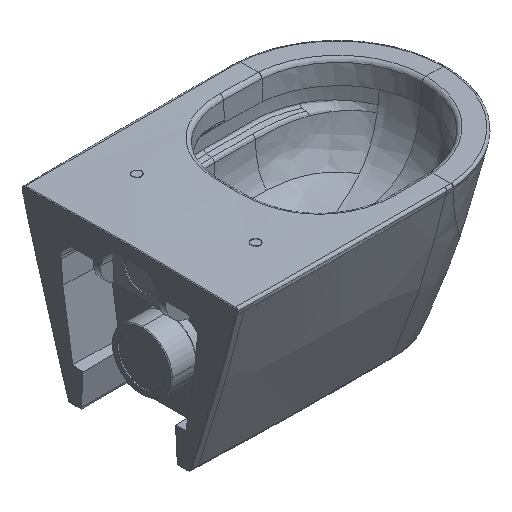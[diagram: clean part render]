
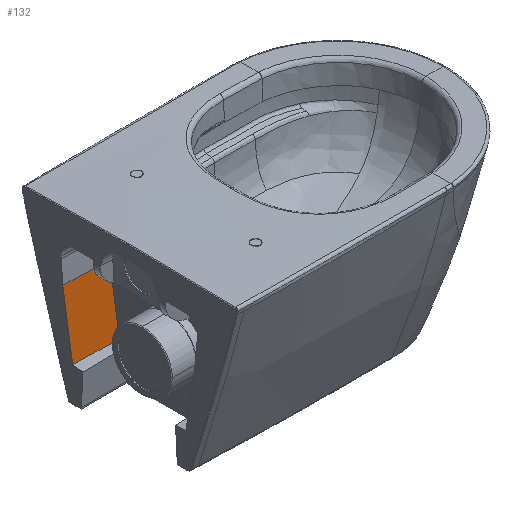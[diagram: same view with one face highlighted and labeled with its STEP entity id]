
A CAD part, isometric view. The second image highlights one B-rep face of the part: STEP entity #132.
In plain terms, the highlighted free-form (B-spline) face has degree [5, 1] with [15, 2] control points.
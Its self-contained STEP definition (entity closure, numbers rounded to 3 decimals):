
#132=ADVANCED_FACE('',(#584),#585,.T.);
#584=FACE_OUTER_BOUND('',#15079,.T.);
#585=B_SPLINE_SURFACE_WITH_KNOTS('',5,1,((#15080,#15081),(#15082,#15083),(#15084,#15085),(#15086,#15087),(#15088,#15089),(#15090,#15091),(#15092,#15093),(#15094,#15095),(#15096,#15097),(#15098,#15099),(#15100,#15101),(#15102,#15103),(#15104,#15105),(#15106,#15107),(#15108,#15109)),.UNSPECIFIED.,.F.,.F.,.F.,(6,3,3,3,6),(2,2),(0.0,15.184,89.95,179.199,179.28),(-2.001,87.641),.UNSPECIFIED.);
#15079=EDGE_LOOP('',(#82486,#82487,#82488,#82489,#82490));
#15080=CARTESIAN_POINT('',(-2.093,114.634,-114.608));
#15081=CARTESIAN_POINT('',(77.398,111.848,-114.207));
#15082=CARTESIAN_POINT('',(-2.047,114.348,-116.486));
#15083=CARTESIAN_POINT('',(77.445,111.563,-116.084));
#15084=CARTESIAN_POINT('',(-2.003,114.063,-118.363));
#15085=CARTESIAN_POINT('',(77.489,111.278,-117.962));
#15086=CARTESIAN_POINT('',(-1.961,113.778,-120.24));
#15087=CARTESIAN_POINT('',(77.53,110.993,-119.839));
#15088=CARTESIAN_POINT('',(-1.73,112.09,-131.362));
#15089=CARTESIAN_POINT('',(77.761,109.304,-130.96));
#15090=CARTESIAN_POINT('',(-1.605,110.401,-142.482));
#15091=CARTESIAN_POINT('',(77.886,107.616,-142.079));
#15092=CARTESIAN_POINT('',(-1.612,109.017,-151.602));
#15093=CARTESIAN_POINT('',(77.879,106.232,-151.198));
#15094=CARTESIAN_POINT('',(-1.864,105.939,-171.874));
#15095=CARTESIAN_POINT('',(77.627,103.154,-171.469));
#15096=CARTESIAN_POINT('',(-2.454,102.862,-192.136));
#15097=CARTESIAN_POINT('',(77.037,100.077,-191.73));
#15098=CARTESIAN_POINT('',(-2.814,101.189,-203.155));
#15099=CARTESIAN_POINT('',(76.677,98.404,-202.749));
#15100=CARTESIAN_POINT('',(-3.104,99.515,-214.184));
#15101=CARTESIAN_POINT('',(76.387,96.73,-213.779));
#15102=CARTESIAN_POINT('',(-3.275,97.841,-225.206));
#15103=CARTESIAN_POINT('',(76.216,95.056,-224.801));
#15104=CARTESIAN_POINT('',(-3.275,97.84,-225.216));
#15105=CARTESIAN_POINT('',(76.216,95.055,-224.811));
#15106=CARTESIAN_POINT('',(-3.275,97.838,-225.226));
#15107=CARTESIAN_POINT('',(76.216,95.053,-224.821));
#15108=CARTESIAN_POINT('',(-3.276,97.837,-225.236));
#15109=CARTESIAN_POINT('',(76.216,95.052,-224.831));
#82486=ORIENTED_EDGE('',*,*,#84848,.T.);
#82487=ORIENTED_EDGE('',*,*,#84849,.F.);
#82488=ORIENTED_EDGE('',*,*,#84850,.T.);
#82489=ORIENTED_EDGE('',*,*,#84851,.F.);
#82490=ORIENTED_EDGE('',*,*,#84572,.T.);
#84572=EDGE_CURVE('',#85982,#85980,#85983,.F.);
#84848=EDGE_CURVE('',#85980,#86462,#86463,.F.);
#84849=EDGE_CURVE('',#86464,#86462,#86465,.T.);
#84850=EDGE_CURVE('',#86464,#86466,#86467,.F.);
#84851=EDGE_CURVE('',#85982,#86466,#86468,.F.);
#85980=VERTEX_POINT('',#89940);
#85982=VERTEX_POINT('',#89957);
#85983=B_SPLINE_CURVE_WITH_KNOTS('',3,(#89958,#89959,#89960,#89961,#89962,#89963,#89964,#89965,#89966,#89967,#89968,#89969),.UNSPECIFIED.,.F.,.F.,(4,1,1,1,1,1,1,1,1,4),(0.0,0.125,0.25,0.375,0.5,0.625,0.687,0.75,0.875,1.0),.UNSPECIFIED.);
#86462=VERTEX_POINT('',#93603);
#86463=B_SPLINE_CURVE_WITH_KNOTS('',1,(#93604,#93605),.UNSPECIFIED.,.F.,.F.,(2,2),(0.0,1.0),.UNSPECIFIED.);
#86464=VERTEX_POINT('',#93606);
#86465=B_SPLINE_CURVE_WITH_KNOTS('',3,(#93607,#93608,#93609,#93610,#93611,#93612,#93613,#93614,#93615),.UNSPECIFIED.,.F.,.F.,(4,1,1,1,1,1,4),(0.0,0.109,0.25,0.5,0.75,0.868,1.0),.UNSPECIFIED.);
#86466=VERTEX_POINT('',#93616);
#86467=B_SPLINE_CURVE_WITH_KNOTS('',3,(#93617,#93618,#93619,#93620),.UNSPECIFIED.,.F.,.F.,(4,4),(0.0,1.0),.UNSPECIFIED.);
#86468=B_SPLINE_CURVE_WITH_KNOTS('',3,(#93621,#93622,#93623,#93624),.UNSPECIFIED.,.F.,.F.,(4,4),(0.0,1.0),.UNSPECIFIED.);
#89940=CARTESIAN_POINT('',(76.228,111.889,-114.213));
#89957=CARTESIAN_POINT('',(76.228,95.17,-224.054));
#89958=CARTESIAN_POINT('',(76.228,111.889,-114.213));
#89959=CARTESIAN_POINT('',(76.228,111.197,-118.797));
#89960=CARTESIAN_POINT('',(76.228,109.814,-127.954));
#89961=CARTESIAN_POINT('',(76.228,107.736,-141.675));
#89962=CARTESIAN_POINT('',(76.228,105.652,-155.387));
#89963=CARTESIAN_POINT('',(76.228,103.562,-169.107));
#89964=CARTESIAN_POINT('',(76.228,101.814,-180.554));
#89965=CARTESIAN_POINT('',(76.228,100.414,-189.715));
#89966=CARTESIAN_POINT('',(76.228,99.014,-198.873));
#89967=CARTESIAN_POINT('',(76.228,97.264,-210.319));
#89968=CARTESIAN_POINT('',(76.228,95.868,-219.476));
#89969=CARTESIAN_POINT('',(76.228,95.17,-224.054));
#93603=CARTESIAN_POINT('',(-1.64,114.618,-114.606));
#93604=CARTESIAN_POINT('',(-1.64,114.618,-114.606));
#93605=CARTESIAN_POINT('',(76.228,111.889,-114.213));
#93606=CARTESIAN_POINT('',(-1.64,97.787,-225.177));
#93607=CARTESIAN_POINT('',(-1.64,97.787,-225.177));
#93608=CARTESIAN_POINT('',(-1.64,98.401,-221.149));
#93609=CARTESIAN_POINT('',(-1.64,99.807,-211.933));
#93610=CARTESIAN_POINT('',(-1.64,102.624,-193.497));
#93611=CARTESIAN_POINT('',(-1.64,106.234,-169.887));
#93612=CARTESIAN_POINT('',(-1.64,109.701,-147.104));
#93613=CARTESIAN_POINT('',(-1.64,112.491,-128.683));
#93614=CARTESIAN_POINT('',(-1.64,113.884,-119.464));
#93615=CARTESIAN_POINT('',(-1.64,114.618,-114.606));
#93616=CARTESIAN_POINT('',(-1.5,97.782,-225.177));
#93617=CARTESIAN_POINT('',(-1.5,97.782,-225.177));
#93618=CARTESIAN_POINT('',(-1.547,97.784,-225.177));
#93619=CARTESIAN_POINT('',(-1.593,97.785,-225.177));
#93620=CARTESIAN_POINT('',(-1.64,97.787,-225.177));
#93621=CARTESIAN_POINT('',(-1.5,97.782,-225.177));
#93622=CARTESIAN_POINT('',(24.409,96.911,-224.803));
#93623=CARTESIAN_POINT('',(50.319,96.04,-224.428));
#93624=CARTESIAN_POINT('',(76.228,95.17,-224.054));
